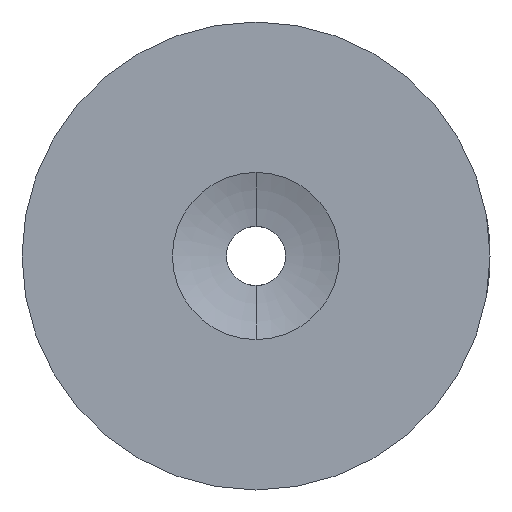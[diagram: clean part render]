
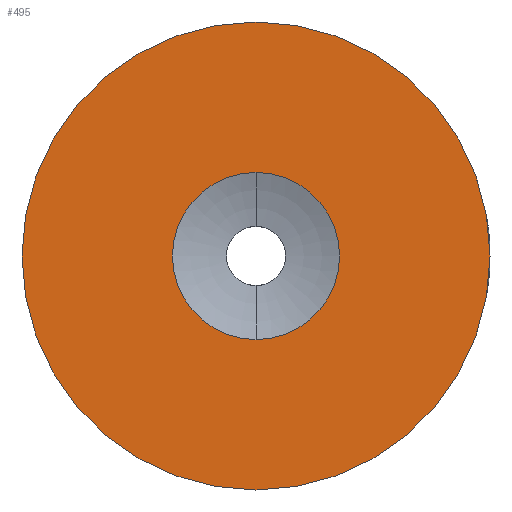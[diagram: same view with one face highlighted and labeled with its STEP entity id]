
A CAD part, left-side view. The second image highlights one B-rep face of the part: STEP entity #495.
In plain terms, the highlighted planar face has unit normal (-1, 0, 0).
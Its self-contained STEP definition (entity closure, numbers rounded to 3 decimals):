
#3 = EDGE_CURVE ( 'NONE', #304, #180, #193, .T. ) ;
#31 = AXIS2_PLACEMENT_3D ( 'NONE', #274, #277, #284 ) ;
#33 = CARTESIAN_POINT ( 'NONE',  ( 0., 0., 0. ) ) ;
#46 = DIRECTION ( 'NONE',  ( -1., 0., 0. ) ) ;
#69 = CIRCLE ( 'NONE', #376, 14. ) ;
#85 = ORIENTED_EDGE ( 'NONE', *, *, #492, .T. ) ;
#113 = EDGE_LOOP ( 'NONE', ( #417, #126 ) ) ;
#126 = ORIENTED_EDGE ( 'NONE', *, *, #506, .F. ) ;
#145 = PLANE ( 'NONE',  #459 ) ;
#171 = DIRECTION ( 'NONE',  ( 0., 0., 1. ) ) ;
#180 = VERTEX_POINT ( 'NONE', #220 ) ;
#183 = CIRCLE ( 'NONE', #426, 5. ) ;
#193 = CIRCLE ( 'NONE', #216, 5. ) ;
#216 = AXIS2_PLACEMENT_3D ( 'NONE', #33, #46, #171 ) ;
#220 = CARTESIAN_POINT ( 'NONE',  ( 0., 0., -5. ) ) ;
#221 = DIRECTION ( 'NONE',  ( -1., 0., 0. ) ) ;
#231 = CARTESIAN_POINT ( 'NONE',  ( 0., 1.75, 0. ) ) ;
#236 = EDGE_CURVE ( 'NONE', #514, #407, #505, .T. ) ;
#252 = CARTESIAN_POINT ( 'NONE',  ( 0., 0., 0. ) ) ;
#274 = CARTESIAN_POINT ( 'NONE',  ( 0., 0., 0. ) ) ;
#277 = DIRECTION ( 'NONE',  ( -1., 0., 0. ) ) ;
#284 = DIRECTION ( 'NONE',  ( 0., 0., 1. ) ) ;
#304 = VERTEX_POINT ( 'NONE', #337 ) ;
#321 = ORIENTED_EDGE ( 'NONE', *, *, #236, .T. ) ;
#323 = EDGE_LOOP ( 'NONE', ( #321, #85 ) ) ;
#326 = DIRECTION ( 'NONE',  ( 0., 0., -1. ) ) ;
#337 = CARTESIAN_POINT ( 'NONE',  ( 0., 0., 5. ) ) ;
#340 = CARTESIAN_POINT ( 'NONE',  ( 0., 0., 14. ) ) ;
#351 = CARTESIAN_POINT ( 'NONE',  ( 0., 0., 0. ) ) ;
#355 = DIRECTION ( 'NONE',  ( 1., 0., 0. ) ) ;
#372 = DIRECTION ( 'NONE',  ( 0., 0., 1. ) ) ;
#376 = AXIS2_PLACEMENT_3D ( 'NONE', #252, #423, #386 ) ;
#386 = DIRECTION ( 'NONE',  ( 0., 0., 1. ) ) ;
#407 = VERTEX_POINT ( 'NONE', #548 ) ;
#417 = ORIENTED_EDGE ( 'NONE', *, *, #3, .F. ) ;
#423 = DIRECTION ( 'NONE',  ( -1., 0., 0. ) ) ;
#426 = AXIS2_PLACEMENT_3D ( 'NONE', #351, #221, #372 ) ;
#459 = AXIS2_PLACEMENT_3D ( 'NONE', #231, #355, #326 ) ;
#476 = FACE_BOUND ( 'NONE', #113, .T. ) ;
#492 = EDGE_CURVE ( 'NONE', #407, #514, #69, .T. ) ;
#495 = ADVANCED_FACE ( 'NONE', ( #476, #519 ), #145, .F. ) ;
#505 = CIRCLE ( 'NONE', #31, 14. ) ;
#506 = EDGE_CURVE ( 'NONE', #180, #304, #183, .T. ) ;
#514 = VERTEX_POINT ( 'NONE', #340 ) ;
#519 = FACE_OUTER_BOUND ( 'NONE', #323, .T. ) ;
#548 = CARTESIAN_POINT ( 'NONE',  ( 0., 0., -14. ) ) ;
